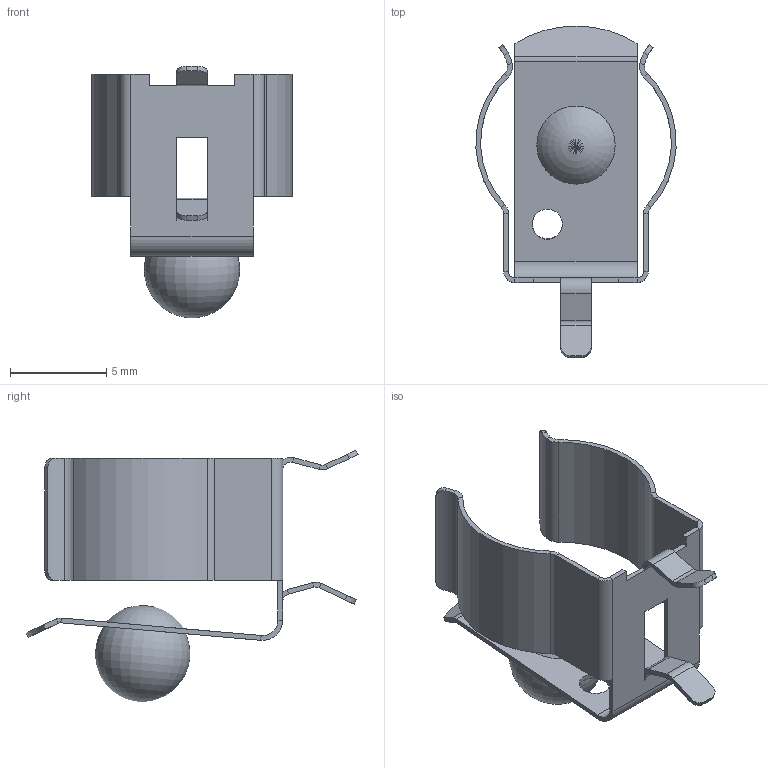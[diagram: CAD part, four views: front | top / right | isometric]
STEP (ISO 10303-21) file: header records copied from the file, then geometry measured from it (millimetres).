
FILE_DESCRIPTION (( 'STEP AP203' ), '1' );
FILE_NAME ('BC-0401 UM-4 M1.STEP', '2026-01-19T06:08:54', ( '' ), ( '' ), 'SwSTEP 2.0', 'SolidWorks 2021', '' );
FILE_SCHEMA (( 'CONFIG_CONTROL_DESIGN' ));
Length unit declared in the file: millimetre
Products named in the file (2): BC-0401 UM-4 M1
Assembly tree (1 placements, depth 2):
  BC-0401 UM-4 M1
    BC-0401 UM-4 M1
Bounding box: 10.39 x 17.25 x 13.07 mm (x, y, z)
Volume: 61.1 mm3; surface area: 805.2 mm2
Topology: 1 solids, 1 shells, 130 faces, 289 edges, 161 vertices
Faces by surface type: plane 85, cylinder 43, torus 2
Full cylindrical faces by diameter (mm): 1.57 x1
Entity records: 3659 total; most frequent: DIRECTION 623, CARTESIAN_POINT 615, ORIENTED_EDGE 566, EDGE_CURVE 283, AXIS2_PLACEMENT_3D 214, LINE 195, VECTOR 195, VERTEX_POINT 158
